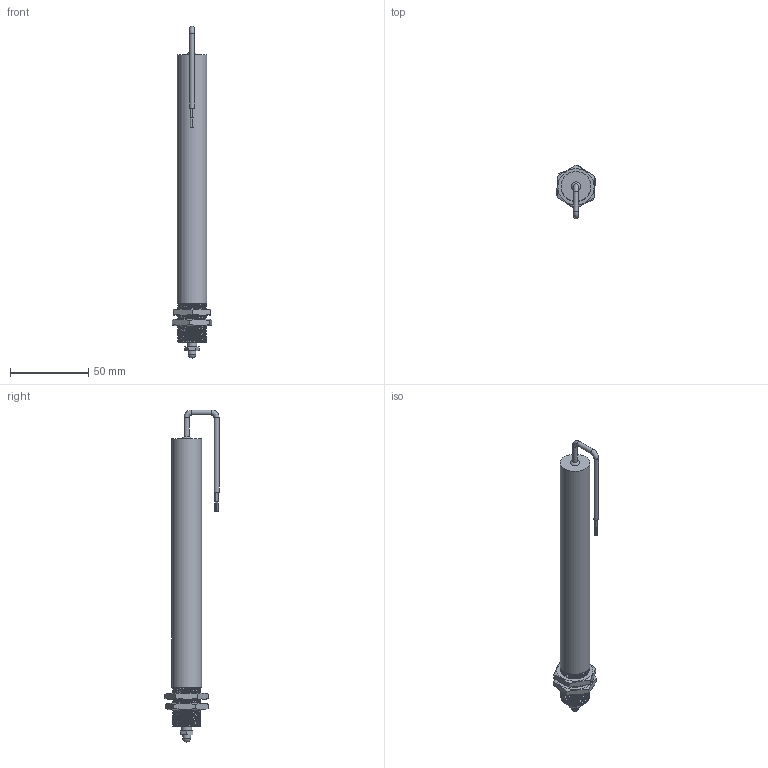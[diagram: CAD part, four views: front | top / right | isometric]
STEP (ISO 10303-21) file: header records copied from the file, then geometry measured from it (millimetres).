
FILE_DESCRIPTION(/* description */ ('ILPS-18S-100-A-00-YY-A SW'),/* implementation_level */ '2;1');
FILE_NAME(/* name */ 'ILPS-18S-100-A-00-YY-A SW.stp',/* time_stamp */ '2026-09-01T08:51:04-04:00',/* author */ ('Cameron'),/* organization */ ('HGSI'),/* preprocessor_version */ 'ST-DEVELOPER v20.1',/* originating_system */ 'Autodesk Inventor 2027',/* authorisation */ '');
FILE_SCHEMA (('AUTOMOTIVE_DESIGN { 1 0 10303 214 3 1 1 }'));
Length unit declared in the file: inch
Products named in the file (5): ILPS-18S-100-A-00-YY-A SW; ILPS-18S-100 Spoiler; Hex Nut; #12360; ILPS-18S-100-A-00-YY-A Body SW
Assembly tree (5 placements, depth 2):
  ILPS-18S-100-A-00-YY-A SW
    ILPS-18S-100 Spoiler
    Hex Nut  x2
    #12360
    ILPS-18S-100-A-00-YY-A Body SW
Bounding box: 25.42 x 34.49 x 212.02 mm (x, y, z)
Volume: 54084.1 mm3; surface area: 23014.9 mm2
Topology: 7 solids, 7 shells, 139 faces, 335 edges, 234 vertices
Faces by surface type: cylinder 74, plane 46, bspline 12, cone 4, torus 2, sphere 1
Full cylindrical faces by diameter (mm): 0.635 x4, 0.762 x4, 1.905 x1, 2.845 x3, 3.175 x4, 5.08 x1, 6.35 x2, 16.891 x24, 18 x25, 19.05 x1
Entity records: 12339 total; most frequent: CARTESIAN_POINT 9252, ORIENTED_EDGE 600, DIRECTION 471, EDGE_CURVE 300, VERTEX_POINT 198, AXIS2_PLACEMENT_3D 184, EDGE_LOOP 146, B_SPLINE_CURVE_WITH_KNOTS 128
